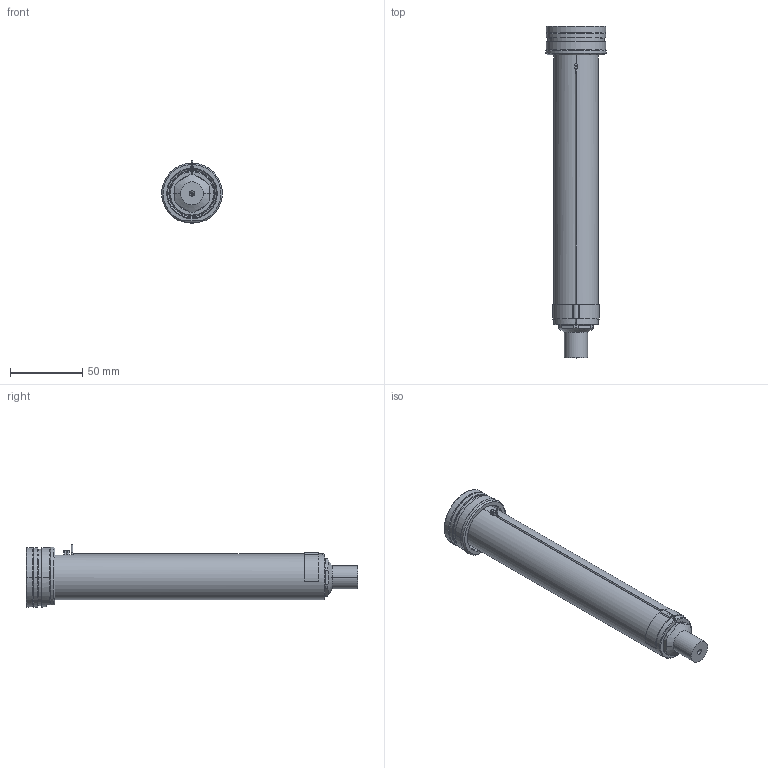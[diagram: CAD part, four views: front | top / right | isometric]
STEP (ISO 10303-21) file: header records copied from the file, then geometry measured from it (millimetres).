
FILE_DESCRIPTION((''),'2;1');
FILE_NAME('EO12_PG-FBE_STD_200_SW','2024-02-19T12:03:27',('sundharh'),(''),'CREO PARAMETRIC BY PTC INC, 2023154','CREO PARAMETRIC BY PTC INC, 2023154','');
FILE_SCHEMA(('CONFIG_CONTROL_DESIGN'));
Length unit declared in the file: millimetre
Products named in the file (1): EO12_PG-FBE_STD_200_SW
Bounding box: 41.85 x 230 x 43 mm (x, y, z)
Volume: 147635.7 mm3; surface area: 38809 mm2
Topology: 2 solids, 3 shells, 219 faces, 577 edges, 354 vertices
Faces by surface type: cylinder 82, plane 59, cone 45, torus 27, sphere 3, bspline 3
Entity records: 7904 total; most frequent: CARTESIAN_POINT 2363, DIRECTION 1229, ORIENTED_EDGE 1142, EDGE_CURVE 571, AXIS2_PLACEMENT_3D 517, VERTEX_POINT 354, CIRCLE 301, EDGE_LOOP 237
